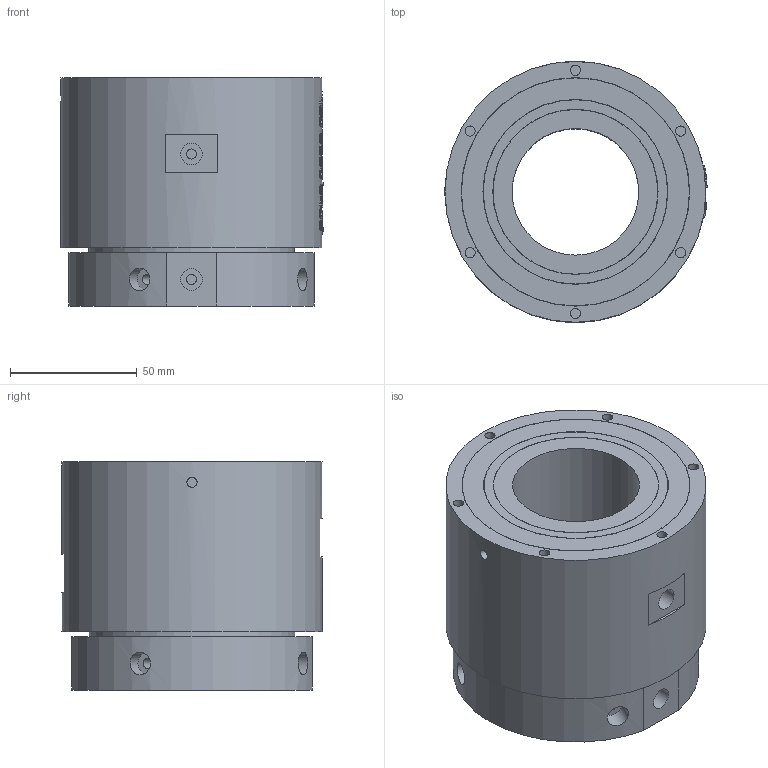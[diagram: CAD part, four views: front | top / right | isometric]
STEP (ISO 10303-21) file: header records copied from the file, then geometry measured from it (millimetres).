
FILE_DESCRIPTION(/* description */ (''),/* implementation_level */ '2;1');
FILE_NAME(/* name */ 'HQ0201D50.stp',/* time_stamp */ '2025-01-19T15:14:17+08:00',/* author */ (''),/* organization */ (''),/* preprocessor_version */ 'ST-DEVELOPER v16.7',/* originating_system */ 'SIEMENS PLM Software NX 12.0',/* authorisation */ '');
FILE_SCHEMA (('AUTOMOTIVE_DESIGN { 1 0 10303 214 3 1 1 1 }'));
Length unit declared in the file: millimetre
Products named in the file (1): HX05089CE4B9bea8
Bounding box: 103.46 x 103 x 90 mm (x, y, z)
Volume: 538288.2 mm3; surface area: 68225.5 mm2
Topology: 1 solids, 1 shells, 413 faces, 999 edges, 670 vertices
Faces by surface type: plane 232, extrusion 93, cylinder 59, bspline 29
Full cylindrical faces by diameter (mm): 4 x14, 4.2 x6, 7 x4, 8.5 x4, 8.875 x4, 50 x1, 65 x1, 65.2 x1, 72.77 x1, 72.97 x1, 81 x1, 90 x1, 90.2 x1, 103 x1
Entity records: 33913 total; most frequent: CARTESIAN_POINT 25467, ORIENTED_EDGE 1880, DIRECTION 1225, EDGE_CURVE 940, B_SPLINE_CURVE_WITH_KNOTS 695, VERTEX_POINT 665, EDGE_LOOP 559, AXIS2_PLACEMENT_3D 502
